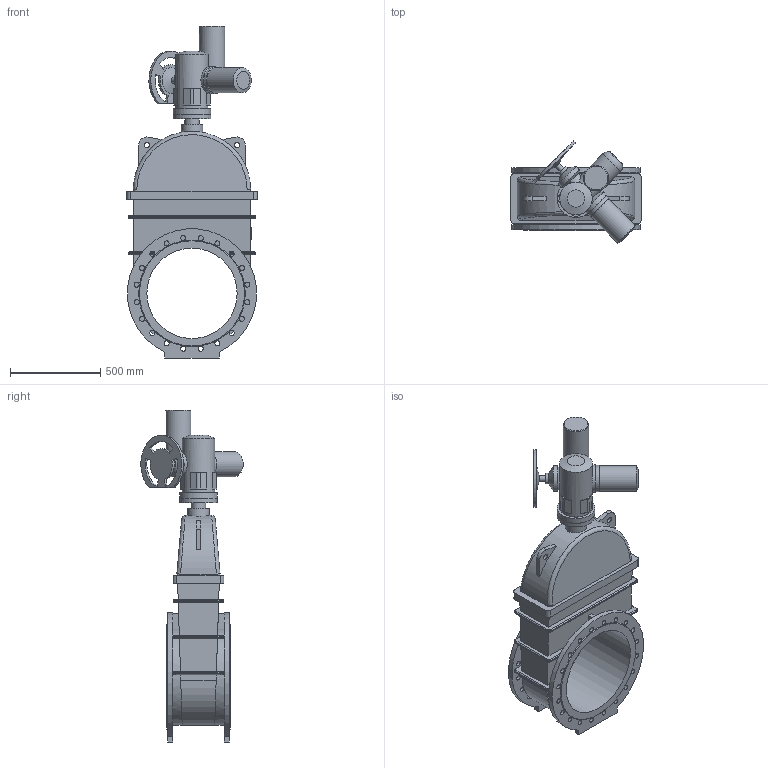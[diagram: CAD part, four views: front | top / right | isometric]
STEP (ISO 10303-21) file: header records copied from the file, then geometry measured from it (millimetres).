
FILE_DESCRIPTION(('STEP AP203'), '1');
FILE_NAME('青溻桄赅 47GVA.Z DN500 PN10+MT903.A45', '', ('UNSPECIFIED'), ('UNSPECIFIED'), 'ASCON STEP Converter 1.6', 'ASCON Math Kernel', '');
FILE_SCHEMA(('CONFIG_CONTROL_DESIGN'));
Length unit declared in the file: millimetre
Bounding box: 720 x 565.84 x 1836.5 mm (x, y, z)
Volume: 146664545.4 mm3; surface area: 4476960.4 mm2
Topology: 2 solids, 3 shells, 357 faces, 892 edges, 569 vertices
Faces by surface type: cylinder 161, plane 154, bspline 26, cone 15, torus 1
Full cylindrical faces by diameter (mm): 14 x4, 17 x4, 17.294 x4, 22 x4, 28 x40, 30 x2, 32 x1, 40 x1, 60 x1, 80 x1, 100 x1, 120 x1, 130 x2, 140 x4, 147 x1, 151 x1, 180 x1, 210 x2, 500 x1
Entity records: 17543 total; most frequent: CARTESIAN_POINT 6468, DIRECTION 1636, ORIENTED_EDGE 1594, EDGE_CURVE 797, AXIS2_PLACEMENT_3D 635, EDGE_LOOP 576, VERTEX_POINT 565, FACE_BOUND 410
